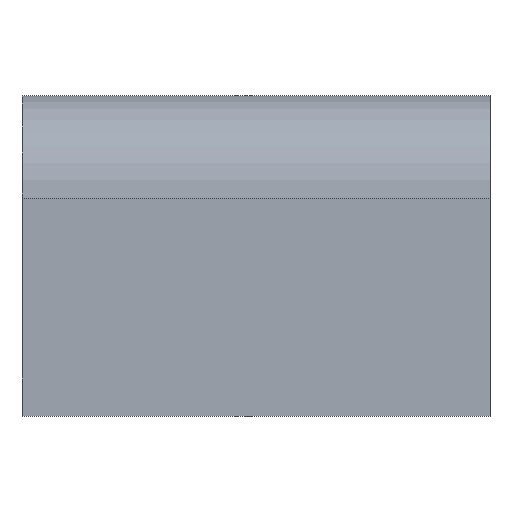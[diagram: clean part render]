
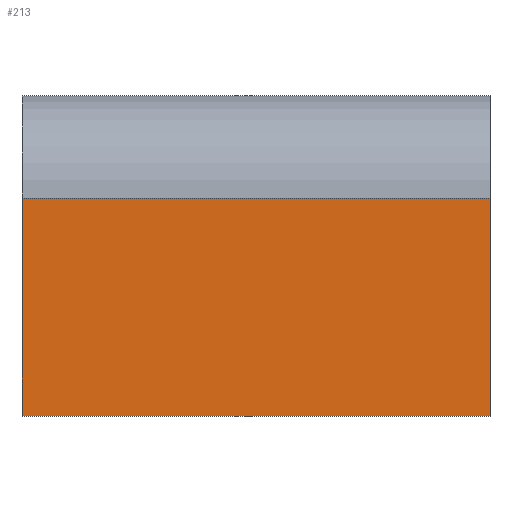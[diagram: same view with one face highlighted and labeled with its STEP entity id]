
A CAD part, top view. The second image highlights one B-rep face of the part: STEP entity #213.
In plain terms, the highlighted planar face has unit normal (0, 0, 1) as drawn and (0, 1, 0) by its records, which use the part's own axes.
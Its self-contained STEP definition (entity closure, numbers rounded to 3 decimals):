
#74 = LINE ( 'NONE', #2638, #5285 ) ;
#213 = ADVANCED_FACE ( 'NONE', ( #4483 ), #447, .F. ) ;
#447 = PLANE ( 'NONE',  #5538 ) ;
#748 = EDGE_CURVE ( 'NONE', #3766, #5042, #74, .T. ) ;
#836 = ORIENTED_EDGE ( 'NONE', *, *, #1705, .F. ) ;
#1332 = EDGE_LOOP ( 'NONE', ( #5193, #836, #4042, #4765 ) ) ;
#1339 = LINE ( 'NONE', #3142, #1824 ) ;
#1385 = CARTESIAN_POINT ( 'NONE',  ( 9.5, 50.4, 0. ) ) ;
#1551 = EDGE_CURVE ( 'NONE', #3766, #5164, #3320, .T. ) ;
#1604 = CARTESIAN_POINT ( 'NONE',  ( 9.5, 50.4, 36.5 ) ) ;
#1705 = EDGE_CURVE ( 'NONE', #5042, #4669, #2115, .T. ) ;
#1803 = DIRECTION ( 'NONE',  ( 0., -1., 0. ) ) ;
#1824 = VECTOR ( 'NONE', #5250, 1000. ) ;
#2115 = LINE ( 'NONE', #2135, #5353 ) ;
#2135 = CARTESIAN_POINT ( 'NONE',  ( -7.5, 50.4, 36.5 ) ) ;
#2170 = CARTESIAN_POINT ( 'NONE',  ( -7.5, 50.4, 0. ) ) ;
#2301 = DIRECTION ( 'NONE',  ( 1., 0., 0. ) ) ;
#2638 = CARTESIAN_POINT ( 'NONE',  ( 9.5, 50.4, 36.5 ) ) ;
#2639 = CARTESIAN_POINT ( 'NONE',  ( -7.5, 50.4, 36.5 ) ) ;
#3105 = DIRECTION ( 'NONE',  ( -1., 0., 0. ) ) ;
#3142 = CARTESIAN_POINT ( 'NONE',  ( 9.5, 50.4, 0. ) ) ;
#3320 = LINE ( 'NONE', #1604, #4532 ) ;
#3368 = CARTESIAN_POINT ( 'NONE',  ( 9.5, 50.4, 36.5 ) ) ;
#3580 = CARTESIAN_POINT ( 'NONE',  ( 9.5, 50.4, 36.5 ) ) ;
#3766 = VERTEX_POINT ( 'NONE', #3368 ) ;
#4042 = ORIENTED_EDGE ( 'NONE', *, *, #748, .F. ) ;
#4199 = DIRECTION ( 'NONE',  ( 0., 0., -1. ) ) ;
#4483 = FACE_OUTER_BOUND ( 'NONE', #1332, .T. ) ;
#4532 = VECTOR ( 'NONE', #4199, 1000. ) ;
#4669 = VERTEX_POINT ( 'NONE', #2170 ) ;
#4765 = ORIENTED_EDGE ( 'NONE', *, *, #1551, .T. ) ;
#5042 = VERTEX_POINT ( 'NONE', #2639 ) ;
#5164 = VERTEX_POINT ( 'NONE', #1385 ) ;
#5193 = ORIENTED_EDGE ( 'NONE', *, *, #5501, .T. ) ;
#5250 = DIRECTION ( 'NONE',  ( -1., 0., 0. ) ) ;
#5282 = DIRECTION ( 'NONE',  ( 0., 0., -1. ) ) ;
#5285 = VECTOR ( 'NONE', #3105, 1000. ) ;
#5353 = VECTOR ( 'NONE', #5282, 1000. ) ;
#5501 = EDGE_CURVE ( 'NONE', #5164, #4669, #1339, .T. ) ;
#5538 = AXIS2_PLACEMENT_3D ( 'NONE', #3580, #1803, #2301 ) ;
